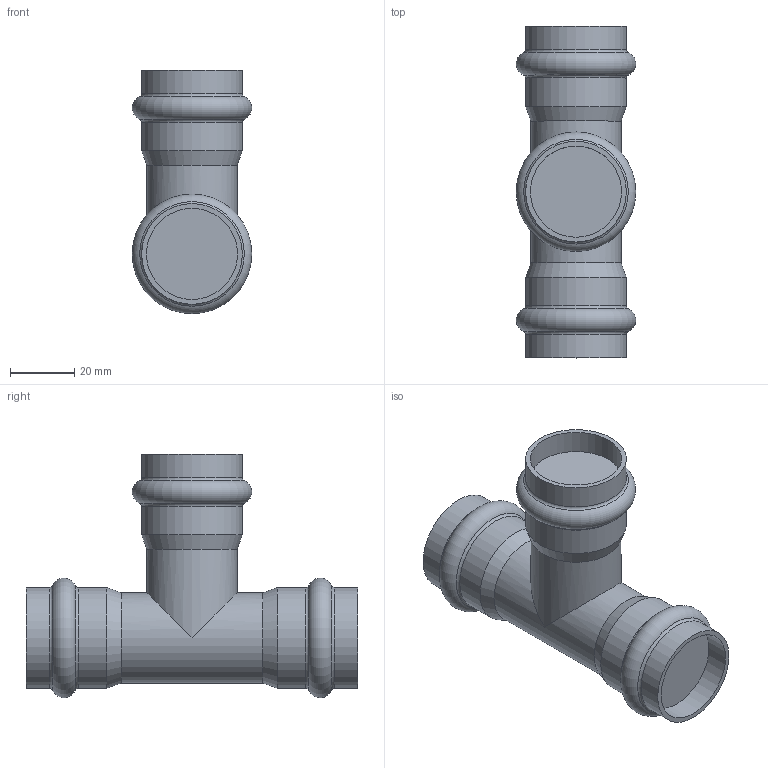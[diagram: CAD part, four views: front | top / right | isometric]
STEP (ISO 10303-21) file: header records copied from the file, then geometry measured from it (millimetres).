
FILE_DESCRIPTION(('STEP AP203'), '1');
FILE_NAME('VTi.931.I.282828', '', ('UNSPECIFIED'), ('UNSPECIFIED'), 'C3D Converter', 'C3D Toolkit', '');
FILE_SCHEMA(('CONFIG_CONTROL_DESIGN'));
Length unit declared in the file: millimetre
Bounding box: 37.1 x 103 x 75.55 mm (x, y, z)
Volume: 94999.1 mm3; surface area: 18732.8 mm2
Topology: 1 solids, 1 shells, 29 faces, 55 edges, 31 vertices
Faces by surface type: cylinder 11, torus 9, plane 6, cone 3
Full cylindrical faces by diameter (mm): 28 x2, 28.3 x3, 31.26 x6
Entity records: 640 total; most frequent: DIRECTION 114, CARTESIAN_POINT 104, ORIENTED_EDGE 62, AXIS2_PLACEMENT_3D 57, EDGE_LOOP 56, FACE_OUTER_BOUND 45, EDGE_CURVE 31, VERTEX_POINT 31
